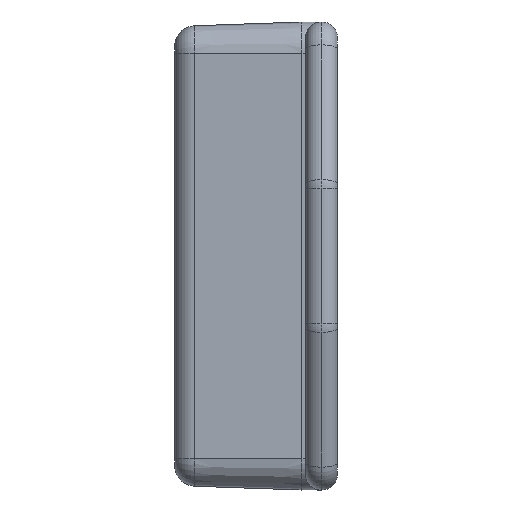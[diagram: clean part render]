
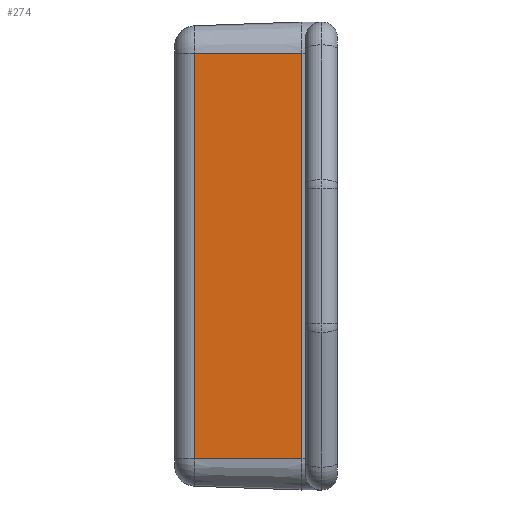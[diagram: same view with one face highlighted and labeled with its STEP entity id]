
A CAD part, left-side view. The second image highlights one B-rep face of the part: STEP entity #274.
In plain terms, the highlighted planar face has unit normal (-0.999, 0.035, 0).
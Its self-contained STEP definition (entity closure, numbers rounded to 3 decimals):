
#274 = ADVANCED_FACE ( 'NONE', ( #3294 ), #3735, .T. ) ;
#697 = VERTEX_POINT ( 'NONE', #1110 ) ;
#864 = EDGE_CURVE ( 'NONE', #2777, #5119, #4496, .T. ) ;
#930 = VECTOR ( 'NONE', #5595, 1000. ) ;
#933 = DIRECTION ( 'NONE',  ( -0.999, 0.035, 0. ) ) ;
#1057 = CARTESIAN_POINT ( 'NONE',  ( -36.1, 0., -19.4 ) ) ;
#1110 = CARTESIAN_POINT ( 'NONE',  ( -35.741, 10.27, -19.4 ) ) ;
#1533 = DIRECTION ( 'NONE',  ( 0., 0., 1. ) ) ;
#1696 = LINE ( 'NONE', #5131, #4210 ) ;
#1940 = EDGE_LOOP ( 'NONE', ( #5558, #3374, #2564, #2890 ) ) ;
#2247 = AXIS2_PLACEMENT_3D ( 'NONE', #2788, #933, #4222 ) ;
#2297 = DIRECTION ( 'NONE',  ( -0.035, -0.999, 0. ) ) ;
#2301 = EDGE_CURVE ( 'NONE', #2777, #697, #5937, .T. ) ;
#2408 = VERTEX_POINT ( 'NONE', #5676 ) ;
#2564 = ORIENTED_EDGE ( 'NONE', *, *, #4045, .T. ) ;
#2753 = CARTESIAN_POINT ( 'NONE',  ( -35.741, 10.27, -19.4 ) ) ;
#2777 = VERTEX_POINT ( 'NONE', #5664 ) ;
#2788 = CARTESIAN_POINT ( 'NONE',  ( -36.1, 0., -19.4 ) ) ;
#2890 = ORIENTED_EDGE ( 'NONE', *, *, #2933, .T. ) ;
#2933 = EDGE_CURVE ( 'NONE', #2408, #5119, #3912, .T. ) ;
#3042 = DIRECTION ( 'NONE',  ( -0.035, -0.999, 0. ) ) ;
#3294 = FACE_OUTER_BOUND ( 'NONE', #1940, .T. ) ;
#3374 = ORIENTED_EDGE ( 'NONE', *, *, #2301, .T. ) ;
#3735 = PLANE ( 'NONE',  #2247 ) ;
#3767 = VECTOR ( 'NONE', #1533, 1000. ) ;
#3881 = CARTESIAN_POINT ( 'NONE',  ( -36.1, 0., 19.4 ) ) ;
#3912 = LINE ( 'NONE', #1057, #3767 ) ;
#4045 = EDGE_CURVE ( 'NONE', #697, #2408, #1696, .T. ) ;
#4210 = VECTOR ( 'NONE', #2297, 1000. ) ;
#4222 = DIRECTION ( 'NONE',  ( -0.035, -0.999, 0. ) ) ;
#4496 = LINE ( 'NONE', #4928, #5618 ) ;
#4928 = CARTESIAN_POINT ( 'NONE',  ( -36.1, 0., 19.4 ) ) ;
#5119 = VERTEX_POINT ( 'NONE', #3881 ) ;
#5131 = CARTESIAN_POINT ( 'NONE',  ( -36.1, 0., -19.4 ) ) ;
#5558 = ORIENTED_EDGE ( 'NONE', *, *, #864, .F. ) ;
#5595 = DIRECTION ( 'NONE',  ( 0., 0., -1. ) ) ;
#5618 = VECTOR ( 'NONE', #3042, 1000. ) ;
#5664 = CARTESIAN_POINT ( 'NONE',  ( -35.741, 10.27, 19.4 ) ) ;
#5676 = CARTESIAN_POINT ( 'NONE',  ( -36.1, 0., -19.4 ) ) ;
#5937 = LINE ( 'NONE', #2753, #930 ) ;
